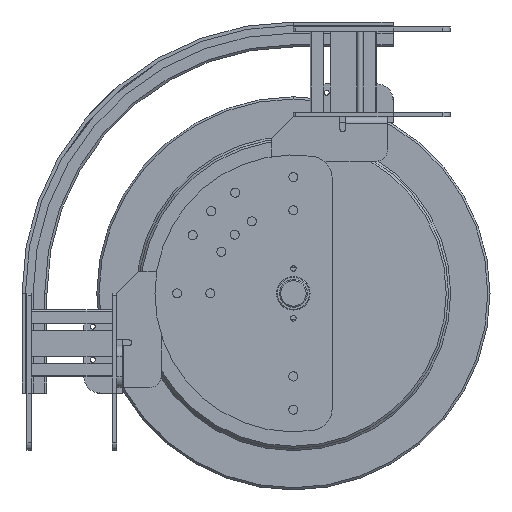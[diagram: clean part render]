
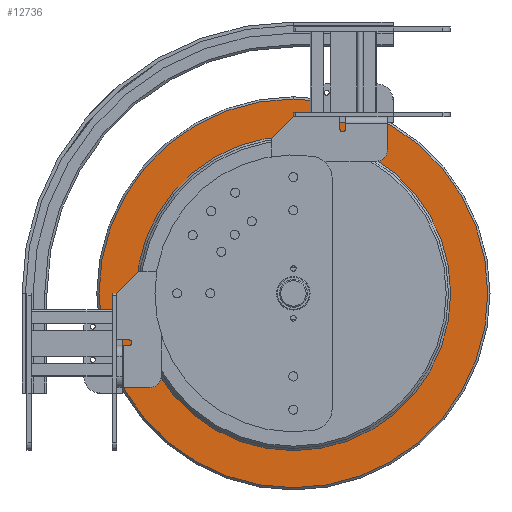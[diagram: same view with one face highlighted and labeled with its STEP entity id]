
A CAD part, front view. The second image highlights one B-rep face of the part: STEP entity #12736.
In plain terms, the highlighted planar face has unit normal (0, -1, 0).
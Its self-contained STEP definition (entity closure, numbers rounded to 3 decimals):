
#901 = VERTEX_POINT ( 'NONE', #23698 ) ;
#2286 = DIRECTION ( 'NONE',  ( 0., 0., -1. ) ) ;
#2611 = CIRCLE ( 'NONE', #18216, 142. ) ;
#2805 = ORIENTED_EDGE ( 'NONE', *, *, #6800, .T. ) ;
#3077 = VERTEX_POINT ( 'NONE', #21697 ) ;
#3792 = CIRCLE ( 'NONE', #16337, 142. ) ;
#3820 = DIRECTION ( 'NONE',  ( 0., 0., -1. ) ) ;
#3972 = DIRECTION ( 'NONE',  ( 0., -1., 0. ) ) ;
#4047 = CARTESIAN_POINT ( 'NONE',  ( -75., -10., -245. ) ) ;
#4309 = ORIENTED_EDGE ( 'NONE', *, *, #10441, .T. ) ;
#5304 = EDGE_LOOP ( 'NONE', ( #4309, #7933 ) ) ;
#5951 = CIRCLE ( 'NONE', #11559, 175.5 ) ;
#6464 = CARTESIAN_POINT ( 'NONE',  ( -75., -10., -69.5 ) ) ;
#6800 = EDGE_CURVE ( 'NONE', #18636, #3077, #5951, .T. ) ;
#7140 = DIRECTION ( 'NONE',  ( 0., -1., 0. ) ) ;
#7819 = AXIS2_PLACEMENT_3D ( 'NONE', #9422, #8229, #2286 ) ;
#7933 = ORIENTED_EDGE ( 'NONE', *, *, #22715, .T. ) ;
#8229 = DIRECTION ( 'NONE',  ( 0., 1., 0. ) ) ;
#9422 = CARTESIAN_POINT ( 'NONE',  ( -75., -10., -245. ) ) ;
#9755 = PLANE ( 'NONE',  #7819 ) ;
#10441 = EDGE_CURVE ( 'NONE', #12990, #901, #3792, .T. ) ;
#10547 = DIRECTION ( 'NONE',  ( 0., 1., 0. ) ) ;
#11060 = ORIENTED_EDGE ( 'NONE', *, *, #24363, .T. ) ;
#11559 = AXIS2_PLACEMENT_3D ( 'NONE', #4047, #3972, #3820 ) ;
#12736 = ADVANCED_FACE ( 'NONE', ( #23091, #22462 ), #9755, .F. ) ;
#12737 = CARTESIAN_POINT ( 'NONE',  ( -75., -10., -387. ) ) ;
#12990 = VERTEX_POINT ( 'NONE', #12737 ) ;
#15534 = EDGE_LOOP ( 'NONE', ( #11060, #2805 ) ) ;
#16337 = AXIS2_PLACEMENT_3D ( 'NONE', #21293, #21464, #21894 ) ;
#18216 = AXIS2_PLACEMENT_3D ( 'NONE', #22534, #10547, #24563 ) ;
#18352 = CIRCLE ( 'NONE', #20928, 175.5 ) ;
#18636 = VERTEX_POINT ( 'NONE', #6464 ) ;
#19100 = CARTESIAN_POINT ( 'NONE',  ( -75., -10., -245. ) ) ;
#20928 = AXIS2_PLACEMENT_3D ( 'NONE', #19100, #7140, #21126 ) ;
#21126 = DIRECTION ( 'NONE',  ( 0., 0., -1. ) ) ;
#21293 = CARTESIAN_POINT ( 'NONE',  ( -75., -10., -245. ) ) ;
#21464 = DIRECTION ( 'NONE',  ( 0., 1., 0. ) ) ;
#21697 = CARTESIAN_POINT ( 'NONE',  ( -75., -10., -420.5 ) ) ;
#21894 = DIRECTION ( 'NONE',  ( 0., 0., -1. ) ) ;
#22462 = FACE_OUTER_BOUND ( 'NONE', #15534, .T. ) ;
#22534 = CARTESIAN_POINT ( 'NONE',  ( -75., -10., -245. ) ) ;
#22715 = EDGE_CURVE ( 'NONE', #901, #12990, #2611, .T. ) ;
#23091 = FACE_BOUND ( 'NONE', #5304, .T. ) ;
#23698 = CARTESIAN_POINT ( 'NONE',  ( -75., -10., -103. ) ) ;
#24363 = EDGE_CURVE ( 'NONE', #3077, #18636, #18352, .T. ) ;
#24563 = DIRECTION ( 'NONE',  ( 0., 0., -1. ) ) ;
